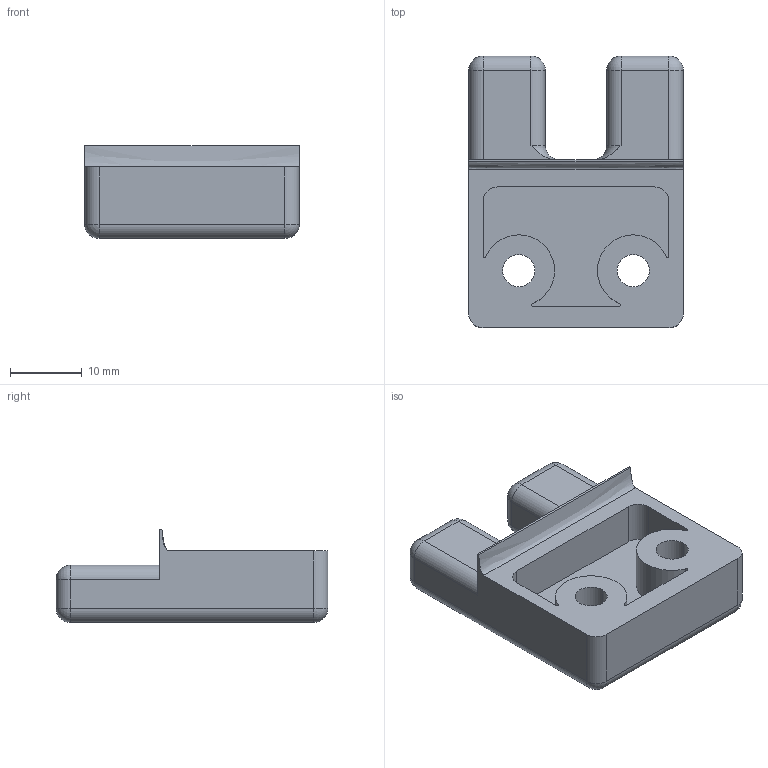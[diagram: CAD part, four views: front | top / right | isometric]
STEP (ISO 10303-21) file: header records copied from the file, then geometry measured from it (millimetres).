
FILE_DESCRIPTION (( 'STEP AP203' ), '1' );
FILE_NAME ('013.100.004.STEP', '2020-10-27T13:29:51', ( '' ), ( '' ), 'SwSTEP 2.0', 'SolidWorks 2018', '' );
FILE_SCHEMA (( 'CONFIG_CONTROL_DESIGN' ));
Length unit declared in the file: millimetre
Products named in the file (1): 013.100.004
Bounding box: 30 x 38 x 13 mm (x, y, z)
Volume: 7173.2 mm3; surface area: 4357.9 mm2
Topology: 1 solids, 1 shells, 74 faces, 183 edges, 104 vertices
Faces by surface type: cylinder 39, plane 20, sphere 10, torus 4, bspline 1
Entity records: 2281 total; most frequent: CARTESIAN_POINT 461, DIRECTION 395, ORIENTED_EDGE 346, EDGE_CURVE 173, AXIS2_PLACEMENT_3D 156, VERTEX_POINT 104, LINE 83, VECTOR 83
